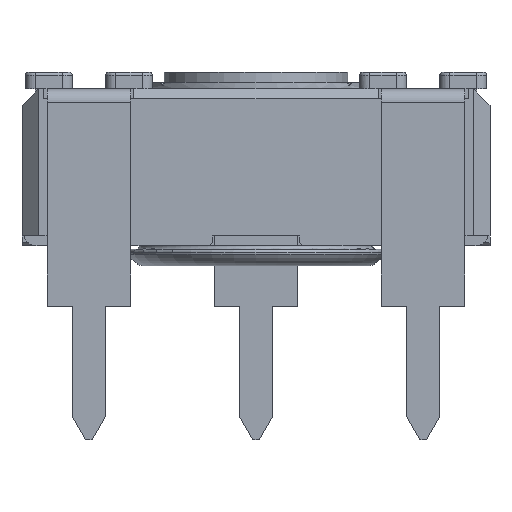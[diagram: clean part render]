
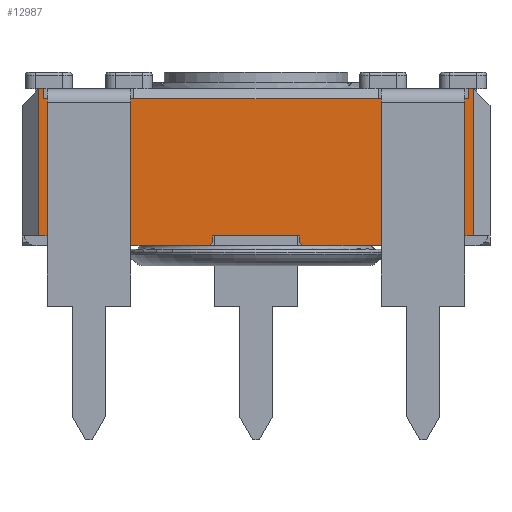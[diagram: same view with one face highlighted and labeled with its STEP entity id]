
A CAD part, front view. The second image highlights one B-rep face of the part: STEP entity #12987.
In plain terms, the highlighted planar face has unit normal (0, -1, 0).
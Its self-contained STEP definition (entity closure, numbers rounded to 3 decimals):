
#978=FACE_OUTER_BOUND('',#1657,.T.);
#1657=EDGE_LOOP('',(#10164,#10165,#10166,#10167,#10168,#10169,#10170,#10171,
#10172,#10173,#10174,#10175,#10176,#10177,#10178,#10179,#10180,#10181,#10182,
#10183,#10184,#10185,#10186,#10187,#10188));
#2158=LINE('',#18312,#3656);
#2166=LINE('',#18332,#3664);
#2190=LINE('',#18379,#3688);
#2191=LINE('',#18381,#3689);
#2196=LINE('',#18392,#3694);
#2220=LINE('',#18439,#3718);
#2408=LINE('',#18994,#3906);
#2421=LINE('',#19018,#3919);
#2571=LINE('',#19573,#4069);
#2776=LINE('',#20096,#4274);
#2781=LINE('',#20106,#4279);
#2786=LINE('',#20116,#4284);
#2801=LINE('',#20142,#4299);
#2909=LINE('',#20460,#4407);
#2917=LINE('',#20478,#4415);
#2923=LINE('',#20486,#4421);
#2924=LINE('',#20489,#4422);
#2925=LINE('',#20491,#4423);
#2926=LINE('',#20493,#4424);
#2927=LINE('',#20494,#4425);
#2928=LINE('',#20495,#4426);
#2929=LINE('',#20496,#4427);
#2930=LINE('',#20497,#4428);
#2931=LINE('',#20498,#4429);
#2932=LINE('',#20499,#4430);
#3656=VECTOR('',#14663,10.);
#3664=VECTOR('',#14685,10.);
#3688=VECTOR('',#14711,10.);
#3689=VECTOR('',#14714,10.);
#3694=VECTOR('',#14729,10.);
#3718=VECTOR('',#14755,10.);
#3906=VECTOR('',#15317,10.);
#3919=VECTOR('',#15344,10.);
#4069=VECTOR('',#15722,10.);
#4274=VECTOR('',#16069,10.);
#4279=VECTOR('',#16074,10.);
#4284=VECTOR('',#16079,10.);
#4299=VECTOR('',#16096,10.);
#4407=VECTOR('',#16352,10.);
#4415=VECTOR('',#16364,10.);
#4421=VECTOR('',#16374,10.);
#4422=VECTOR('',#16377,10.);
#4423=VECTOR('',#16378,10.);
#4424=VECTOR('',#16379,10.);
#4425=VECTOR('',#16380,10.);
#4426=VECTOR('',#16381,10.);
#4427=VECTOR('',#16382,10.);
#4428=VECTOR('',#16383,10.);
#4429=VECTOR('',#16384,10.);
#4430=VECTOR('',#16385,10.);
#5071=VERTEX_POINT('',#18165);
#5077=VERTEX_POINT('',#18182);
#5087=VERTEX_POINT('',#18204);
#5135=VERTEX_POINT('',#18311);
#5140=VERTEX_POINT('',#18331);
#5162=VERTEX_POINT('',#18377);
#5163=VERTEX_POINT('',#18391);
#5185=VERTEX_POINT('',#18437);
#5364=VERTEX_POINT('',#18991);
#5365=VERTEX_POINT('',#18993);
#5368=VERTEX_POINT('',#19015);
#5369=VERTEX_POINT('',#19017);
#5503=VERTEX_POINT('',#19569);
#5655=VERTEX_POINT('',#20095);
#5659=VERTEX_POINT('',#20103);
#5660=VERTEX_POINT('',#20105);
#5664=VERTEX_POINT('',#20113);
#5665=VERTEX_POINT('',#20115);
#5742=VERTEX_POINT('',#20458);
#5743=VERTEX_POINT('',#20459);
#5750=VERTEX_POINT('',#20476);
#5751=VERTEX_POINT('',#20477);
#5752=VERTEX_POINT('',#20488);
#5753=VERTEX_POINT('',#20490);
#5754=VERTEX_POINT('',#20492);
#6403=EDGE_CURVE('',#5135,#5071,#2158,.T.);
#6413=EDGE_CURVE('',#5140,#5135,#2166,.T.);
#6437=EDGE_CURVE('',#5071,#5162,#2190,.T.);
#6438=EDGE_CURVE('',#5077,#5087,#2191,.T.);
#6443=EDGE_CURVE('',#5163,#5077,#2196,.T.);
#6467=EDGE_CURVE('',#5087,#5185,#2220,.T.);
#6746=EDGE_CURVE('',#5365,#5364,#2408,.T.);
#6759=EDGE_CURVE('',#5369,#5368,#2421,.T.);
#6969=EDGE_CURVE('',#5369,#5503,#2571,.T.);
#7195=EDGE_CURVE('',#5655,#5503,#2776,.T.);
#7200=EDGE_CURVE('',#5660,#5659,#2781,.T.);
#7205=EDGE_CURVE('',#5665,#5664,#2786,.T.);
#7220=EDGE_CURVE('',#5665,#5364,#2801,.T.);
#7347=EDGE_CURVE('',#5742,#5743,#2909,.T.);
#7355=EDGE_CURVE('',#5750,#5751,#2917,.T.);
#7361=EDGE_CURVE('',#5660,#5742,#2923,.T.);
#7362=EDGE_CURVE('',#5659,#5752,#2924,.T.);
#7363=EDGE_CURVE('',#5753,#5752,#2925,.T.);
#7364=EDGE_CURVE('',#5753,#5754,#2926,.T.);
#7365=EDGE_CURVE('',#5754,#5655,#2927,.T.);
#7366=EDGE_CURVE('',#5368,#5163,#2928,.T.);
#7367=EDGE_CURVE('',#5140,#5185,#2929,.T.);
#7368=EDGE_CURVE('',#5162,#5365,#2930,.T.);
#7369=EDGE_CURVE('',#5664,#5751,#2931,.T.);
#7370=EDGE_CURVE('',#5750,#5743,#2932,.T.);
#10164=ORIENTED_EDGE('',*,*,#7347,.F.);
#10165=ORIENTED_EDGE('',*,*,#7361,.F.);
#10166=ORIENTED_EDGE('',*,*,#7200,.T.);
#10167=ORIENTED_EDGE('',*,*,#7362,.T.);
#10168=ORIENTED_EDGE('',*,*,#7363,.F.);
#10169=ORIENTED_EDGE('',*,*,#7364,.T.);
#10170=ORIENTED_EDGE('',*,*,#7365,.T.);
#10171=ORIENTED_EDGE('',*,*,#7195,.T.);
#10172=ORIENTED_EDGE('',*,*,#6969,.F.);
#10173=ORIENTED_EDGE('',*,*,#6759,.T.);
#10174=ORIENTED_EDGE('',*,*,#7366,.T.);
#10175=ORIENTED_EDGE('',*,*,#6443,.T.);
#10176=ORIENTED_EDGE('',*,*,#6438,.T.);
#10177=ORIENTED_EDGE('',*,*,#6467,.T.);
#10178=ORIENTED_EDGE('',*,*,#7367,.F.);
#10179=ORIENTED_EDGE('',*,*,#6413,.T.);
#10180=ORIENTED_EDGE('',*,*,#6403,.T.);
#10181=ORIENTED_EDGE('',*,*,#6437,.T.);
#10182=ORIENTED_EDGE('',*,*,#7368,.T.);
#10183=ORIENTED_EDGE('',*,*,#6746,.T.);
#10184=ORIENTED_EDGE('',*,*,#7220,.F.);
#10185=ORIENTED_EDGE('',*,*,#7205,.T.);
#10186=ORIENTED_EDGE('',*,*,#7369,.T.);
#10187=ORIENTED_EDGE('',*,*,#7355,.F.);
#10188=ORIENTED_EDGE('',*,*,#7370,.T.);
#12171=PLANE('',#13853);
#12987=ADVANCED_FACE('',(#978),#12171,.T.);
#13853=AXIS2_PLACEMENT_3D('',#20487,#16375,#16376);
#14663=DIRECTION('',(-1.,0.,0.));
#14685=DIRECTION('',(-1.,0.,0.));
#14711=DIRECTION('',(-1.,0.,0.));
#14714=DIRECTION('',(-1.,0.,0.));
#14729=DIRECTION('',(-1.,0.,0.));
#14755=DIRECTION('',(-1.,0.,0.));
#15317=DIRECTION('',(-1.,0.,0.));
#15344=DIRECTION('',(-1.,0.,0.));
#15722=DIRECTION('',(0.,0.,-1.));
#16069=DIRECTION('',(1.,0.,0.));
#16074=DIRECTION('',(1.,0.,0.));
#16079=DIRECTION('',(1.,0.,0.));
#16096=DIRECTION('',(0.,0.,1.));
#16352=DIRECTION('',(-0.707,0.,-0.707));
#16364=DIRECTION('',(-0.707,0.,0.707));
#16374=DIRECTION('',(0.,0.,-1.));
#16375=DIRECTION('center_axis',(0.,-1.,0.));
#16376=DIRECTION('ref_axis',(0.,0.,-1.));
#16377=DIRECTION('',(0.,0.,-1.));
#16378=DIRECTION('',(-0.707,0.,0.707));
#16379=DIRECTION('',(1.,0.,0.));
#16380=DIRECTION('',(0.,0.,1.));
#16381=DIRECTION('',(0.,0.,-1.));
#16382=DIRECTION('',(1.,0.,0.));
#16383=DIRECTION('',(0.,0.,1.));
#16384=DIRECTION('',(0.,0.,-1.));
#16385=DIRECTION('',(1.,0.,0.));
#18165=CARTESIAN_POINT('',(-13.717,-9.898,4.1));
#18182=CARTESIAN_POINT('',(-1.217,-9.898,4.1));
#18204=CARTESIAN_POINT('',(-3.717,-9.898,4.1));
#18311=CARTESIAN_POINT('',(-11.217,-9.898,4.1));
#18312=CARTESIAN_POINT('',(-3.944,-9.898,4.1));
#18331=CARTESIAN_POINT('',(-11.117,-9.898,4.1));
#18332=CARTESIAN_POINT('',(-3.944,-9.898,4.1));
#18377=CARTESIAN_POINT('',(-13.817,-9.898,4.1));
#18379=CARTESIAN_POINT('',(-3.944,-9.898,4.1));
#18381=CARTESIAN_POINT('',(-1.862,-9.898,4.1));
#18391=CARTESIAN_POINT('',(-1.117,-9.898,4.1));
#18392=CARTESIAN_POINT('',(-1.862,-9.898,4.1));
#18437=CARTESIAN_POINT('',(-3.817,-9.898,4.1));
#18439=CARTESIAN_POINT('',(-1.862,-9.898,4.1));
#18991=CARTESIAN_POINT('',(-13.967,-9.898,4.4));
#18993=CARTESIAN_POINT('',(-13.817,-9.898,4.4));
#18994=CARTESIAN_POINT('',(-14.467,-9.898,4.4));
#19015=CARTESIAN_POINT('',(-1.117,-9.898,4.4));
#19017=CARTESIAN_POINT('',(-0.967,-9.898,4.4));
#19018=CARTESIAN_POINT('',(-14.467,-9.898,4.4));
#19569=CARTESIAN_POINT('',(-0.967,-9.898,0.));
#19573=CARTESIAN_POINT('',(-0.967,-9.898,0.));
#20095=CARTESIAN_POINT('',(-1.467,-9.898,0.));
#20096=CARTESIAN_POINT('',(-0.646,-9.898,0.));
#20103=CARTESIAN_POINT('',(-6.167,-9.898,0.));
#20105=CARTESIAN_POINT('',(-8.767,-9.898,0.));
#20106=CARTESIAN_POINT('',(-14.467,-9.898,0.));
#20113=CARTESIAN_POINT('',(-13.467,-9.898,0.));
#20115=CARTESIAN_POINT('',(-13.967,-9.898,0.));
#20116=CARTESIAN_POINT('',(-7.245,-9.898,0.));
#20142=CARTESIAN_POINT('',(-13.967,-9.898,0.));
#20458=CARTESIAN_POINT('',(-8.767,-9.898,-0.2));
#20459=CARTESIAN_POINT('',(-8.867,-9.898,-0.3));
#20460=CARTESIAN_POINT('',(-6.667,-9.898,1.9));
#20476=CARTESIAN_POINT('',(-13.367,-9.898,-0.3));
#20477=CARTESIAN_POINT('',(-13.467,-9.898,-0.2));
#20478=CARTESIAN_POINT('',(-10.242,-9.898,-3.425));
#20486=CARTESIAN_POINT('',(-8.767,-9.898,0.));
#20487=CARTESIAN_POINT('Origin',(-0.467,-9.898,0.));
#20488=CARTESIAN_POINT('',(-6.167,-9.898,-0.2));
#20489=CARTESIAN_POINT('',(-6.167,-9.898,0.));
#20490=CARTESIAN_POINT('',(-6.067,-9.898,-0.3));
#20491=CARTESIAN_POINT('',(-4.767,-9.898,-1.6));
#20492=CARTESIAN_POINT('',(-1.467,-9.898,-0.3));
#20493=CARTESIAN_POINT('',(-0.467,-9.898,-0.3));
#20494=CARTESIAN_POINT('',(-1.467,-9.898,-0.15));
#20495=CARTESIAN_POINT('',(-1.117,-9.898,2.2));
#20496=CARTESIAN_POINT('',(-3.967,-9.898,4.1));
#20497=CARTESIAN_POINT('',(-13.817,-9.898,2.2));
#20498=CARTESIAN_POINT('',(-13.467,-9.898,-0.15));
#20499=CARTESIAN_POINT('',(-0.467,-9.898,-0.3));
